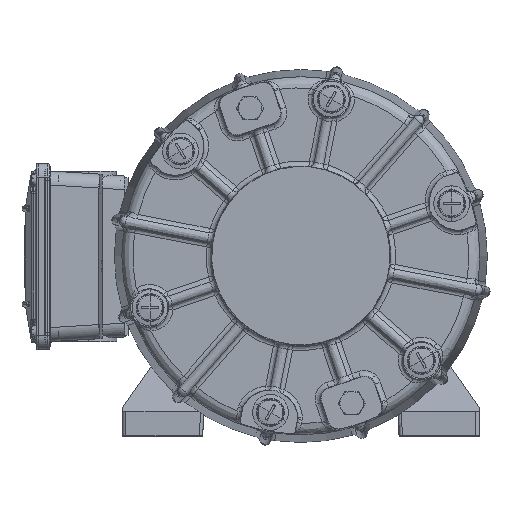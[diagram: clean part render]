
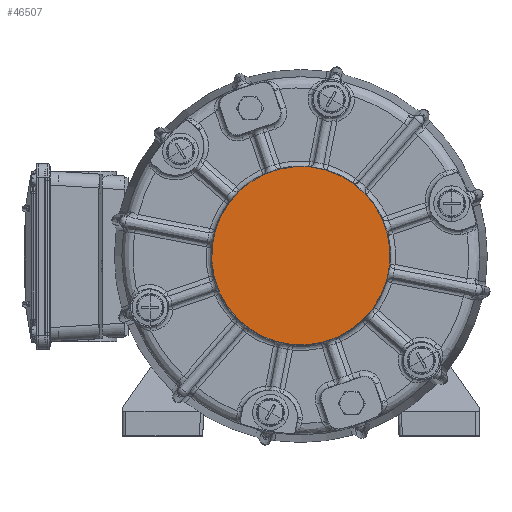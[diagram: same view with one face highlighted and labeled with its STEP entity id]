
A CAD part, top view. The second image highlights one B-rep face of the part: STEP entity #46507.
In plain terms, the highlighted planar face has unit normal (0, 0, 1).
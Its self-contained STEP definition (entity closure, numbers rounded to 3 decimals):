
#2041 = CARTESIAN_POINT ( 'NONE',  ( 79.178, 6.927, 148.369 ) ) ;
#2423 = DIRECTION ( 'NONE',  ( 0., 0., -1. ) ) ;
#23332 = DIRECTION ( 'NONE',  ( 0., 1., 0. ) ) ;
#26205 = CARTESIAN_POINT ( 'NONE',  ( 0., 0., 148.369 ) ) ;
#30627 = ORIENTED_EDGE ( 'NONE', *, *, #176044, .T. ) ;
#31294 = DIRECTION ( 'NONE',  ( -1., 0., 0. ) ) ;
#42946 = FACE_OUTER_BOUND ( 'NONE', #110464, .T. ) ;
#43567 = AXIS2_PLACEMENT_3D ( 'NONE', #55981, #232354, #31294 ) ;
#46507 = ADVANCED_FACE ( 'NONE', ( #42946 ), #123909, .F. ) ;
#55981 = CARTESIAN_POINT ( 'NONE',  ( 0., 0., 148.369 ) ) ;
#61489 = DIRECTION ( 'NONE',  ( 0., 0., 1. ) ) ;
#64225 = CIRCLE ( 'NONE', #210174, 79.481 ) ;
#95335 = VERTEX_POINT ( 'NONE', #2041 ) ;
#105845 = DIRECTION ( 'NONE',  ( -1., 0., 0. ) ) ;
#110464 = EDGE_LOOP ( 'NONE', ( #182913, #30627 ) ) ;
#123909 = PLANE ( 'NONE',  #220880 ) ;
#156098 = CIRCLE ( 'NONE', #43567, 79.481 ) ;
#176044 = EDGE_CURVE ( 'NONE', #198407, #95335, #156098, .T. ) ;
#182913 = ORIENTED_EDGE ( 'NONE', *, *, #242874, .T. ) ;
#185231 = CARTESIAN_POINT ( 'NONE',  ( 0., 0., 148.369 ) ) ;
#185322 = CARTESIAN_POINT ( 'NONE',  ( -79.178, -6.927, 148.369 ) ) ;
#198407 = VERTEX_POINT ( 'NONE', #185322 ) ;
#210174 = AXIS2_PLACEMENT_3D ( 'NONE', #26205, #61489, #105845 ) ;
#220880 = AXIS2_PLACEMENT_3D ( 'NONE', #185231, #2423, #23332 ) ;
#232354 = DIRECTION ( 'NONE',  ( 0., 0., 1. ) ) ;
#242874 = EDGE_CURVE ( 'NONE', #95335, #198407, #64225, .T. ) ;
